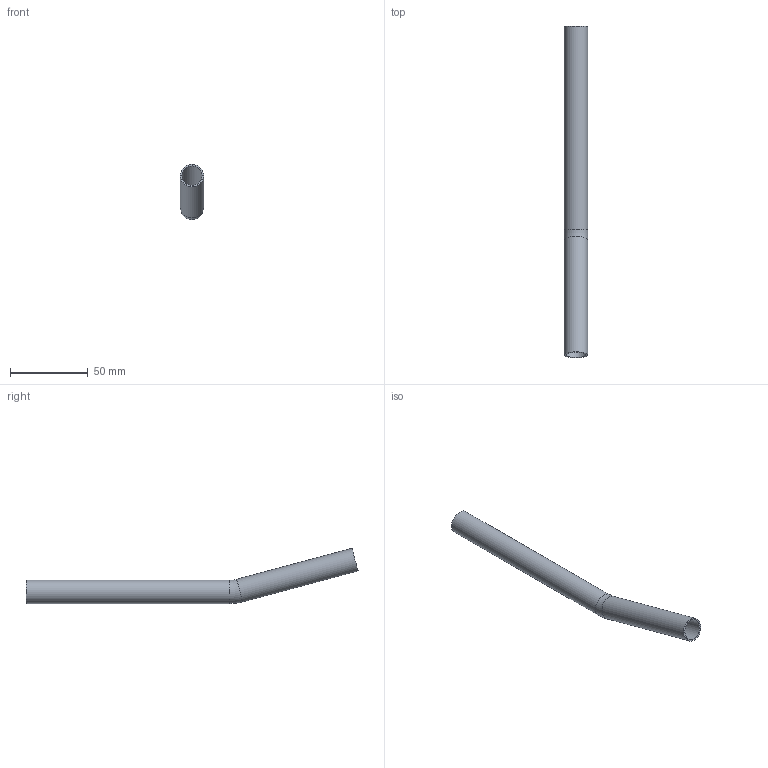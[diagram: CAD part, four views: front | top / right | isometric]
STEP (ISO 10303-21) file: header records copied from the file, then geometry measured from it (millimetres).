
FILE_DESCRIPTION(('STEP AP203'), '1');
FILE_NAME('ÂÐ.747111.003 - VTi.955.I.151515 Îòâîä 15 ãð. d15 (80õ134)', '', ('UNSPECIFIED'), ('UNSPECIFIED'), 'C3D Converter', 'C3D Toolkit', '');
FILE_SCHEMA(('CONFIG_CONTROL_DESIGN'));
Length unit declared in the file: millimetre
Products named in the file (1): ВР.747111.003
Bounding box: 15 x 213.22 x 35.45 mm (x, y, z)
Volume: 9410.6 mm3; surface area: 18909.1 mm2
Topology: 1 solids, 1 shells, 8 faces, 14 edges, 8 vertices
Faces by surface type: cylinder 4, torus 2, plane 2
Full cylindrical faces by diameter (mm): 13 x2, 15 x2
Entity records: 208 total; most frequent: DIRECTION 34, CARTESIAN_POINT 25, AXIS2_PLACEMENT_3D 17, EDGE_LOOP 16, ORIENTED_EDGE 16, FACE_OUTER_BOUND 12, ADVANCED_FACE 8, EDGE_CURVE 8
